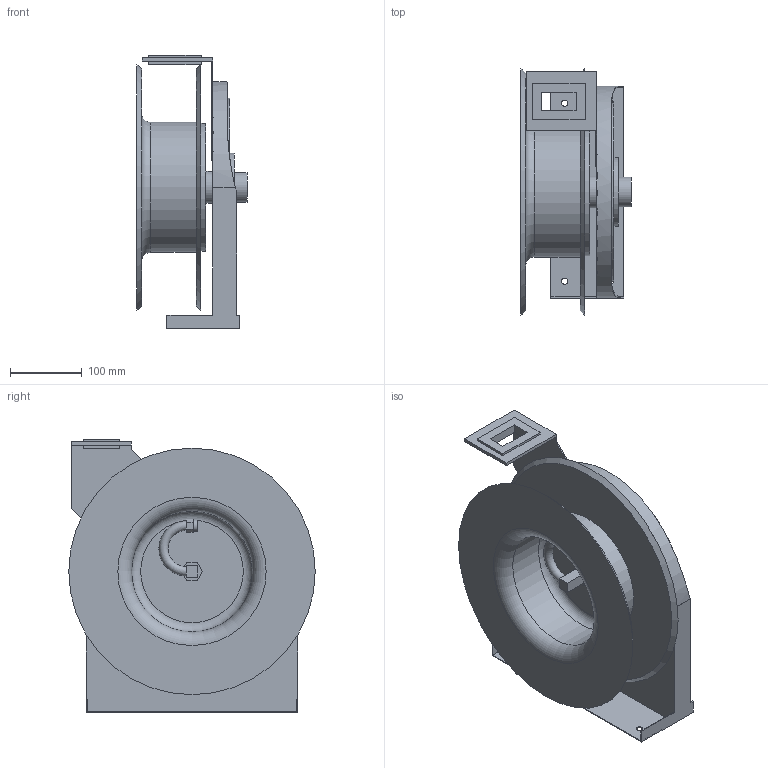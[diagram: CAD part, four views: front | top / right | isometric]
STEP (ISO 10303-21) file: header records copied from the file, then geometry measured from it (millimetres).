
FILE_DESCRIPTION( ( 'Unknown' ), '1' );
FILE_NAME( 'J:/NPD/RE 12893 3D WEB MODELS/5000 SERIES/5000 OXP TW.stp', 'Unknown', ( 'Unknown' ), ( 'Unknown' ), 'PSStep 10.1', 'Unknown', ' ' );
FILE_SCHEMA( ( 'AUTOMOTIVE_DESIGN { 1 0 10303 214 1 1 1 1 }' ) );
Length unit declared in the file: millimetre
Products named in the file (1): 1
Bounding box: 153.11 x 342.9 x 380.01 mm (x, y, z)
Volume: 2897841.1 mm3; surface area: 765089.2 mm2
Topology: 1 solids, 1 shells, 114 faces, 273 edges, 178 vertices
Faces by surface type: plane 87, cylinder 19, cone 4, torus 4
Full cylindrical faces by diameter (mm): 8.712 x4, 11.862 x1, 15.281 x1, 15.875 x1, 25.4 x1, 41.275 x1, 44.45 x1, 95.25 x1, 168.148 x1, 177.8 x1, 180.848 x1, 247.65 x1
Entity records: 4086 total; most frequent: CARTESIAN_POINT 585, DIRECTION 528, ORIENTED_EDGE 482, EDGE_CURVE 241, AXIS2_PLACEMENT_3D 176, LINE 176, VECTOR 176, VERTEX_POINT 169
